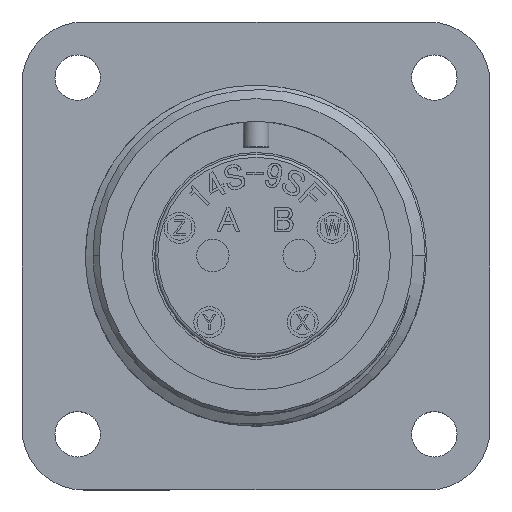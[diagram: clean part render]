
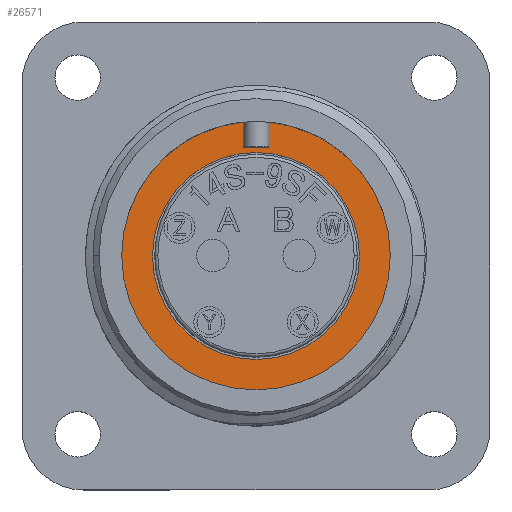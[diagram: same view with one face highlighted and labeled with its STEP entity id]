
A CAD part, top view. The second image highlights one B-rep face of the part: STEP entity #26571.
In plain terms, the highlighted planar face has unit normal (0, 0, 1).
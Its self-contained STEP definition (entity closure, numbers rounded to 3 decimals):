
#682 = EDGE_CURVE ( 'NONE', #40422, #42377, #41335, .T. ) ;
#1693 = FACE_BOUND ( 'NONE', #36719, .T. ) ;
#1934 = VERTEX_POINT ( 'NONE', #45228 ) ;
#2106 = DIRECTION ( 'NONE',  ( 0., -1., 0. ) ) ;
#2159 = DIRECTION ( 'NONE',  ( 1., 0., 0. ) ) ;
#4675 = LINE ( 'NONE', #8717, #41885 ) ;
#5313 = CIRCLE ( 'NONE', #17452, 8.67 ) ;
#5405 = EDGE_CURVE ( 'NONE', #25157, #13137, #12387, .T. ) ;
#6861 = CARTESIAN_POINT ( 'NONE',  ( 0., 0., -14.3 ) ) ;
#8044 = LINE ( 'NONE', #27371, #17637 ) ;
#8717 = CARTESIAN_POINT ( 'NONE',  ( 0.825, 7.03, -14.3 ) ) ;
#8731 = DIRECTION ( 'NONE',  ( 0., 0., 1. ) ) ;
#10503 = DIRECTION ( 'NONE',  ( 1., 0., 0. ) ) ;
#10764 = DIRECTION ( 'NONE',  ( 0., 0., 1. ) ) ;
#11254 = DIRECTION ( 'NONE',  ( 0., 0., 1. ) ) ;
#11321 = AXIS2_PLACEMENT_3D ( 'NONE', #25071, #10764, #35943 ) ;
#12246 = DIRECTION ( 'NONE',  ( 0., -1., 0. ) ) ;
#12387 = LINE ( 'NONE', #33780, #13509 ) ;
#13137 = VERTEX_POINT ( 'NONE', #20860 ) ;
#13175 = CIRCLE ( 'NONE', #16116, 6.68 ) ;
#13509 = VECTOR ( 'NONE', #12246, 1000. ) ;
#15449 = VERTEX_POINT ( 'NONE', #34649 ) ;
#16116 = AXIS2_PLACEMENT_3D ( 'NONE', #32818, #11254, #36434 ) ;
#17374 = EDGE_CURVE ( 'NONE', #42377, #1934, #5313, .T. ) ;
#17452 = AXIS2_PLACEMENT_3D ( 'NONE', #19383, #44532, #22986 ) ;
#17637 = VECTOR ( 'NONE', #2106, 1000. ) ;
#18437 = EDGE_CURVE ( 'NONE', #13137, #32930, #4675, .T. ) ;
#19383 = CARTESIAN_POINT ( 'NONE',  ( 0., 0., -14.3 ) ) ;
#19594 = DIRECTION ( 'NONE',  ( -1., 0., 0. ) ) ;
#20296 = ORIENTED_EDGE ( 'NONE', *, *, #22819, .F. ) ;
#20860 = CARTESIAN_POINT ( 'NONE',  ( 0.825, 7.03, -14.3 ) ) ;
#21124 = ORIENTED_EDGE ( 'NONE', *, *, #28221, .F. ) ;
#21390 = CARTESIAN_POINT ( 'NONE',  ( -0.825, 7.03, -14.3 ) ) ;
#22574 = ORIENTED_EDGE ( 'NONE', *, *, #30417, .T. ) ;
#22819 = EDGE_CURVE ( 'NONE', #15449, #41237, #13175, .T. ) ;
#22986 = DIRECTION ( 'NONE',  ( 1., 0., 0. ) ) ;
#23286 = CARTESIAN_POINT ( 'NONE',  ( -8.67, 0., -14.3 ) ) ;
#23762 = DIRECTION ( 'NONE',  ( 0., 0., 1. ) ) ;
#25071 = CARTESIAN_POINT ( 'NONE',  ( 0., 8.67, -14.3 ) ) ;
#25157 = VERTEX_POINT ( 'NONE', #33260 ) ;
#25413 = ORIENTED_EDGE ( 'NONE', *, *, #18437, .T. ) ;
#26571 = ADVANCED_FACE ( 'NONE', ( #1693, #38894 ), #35786, .T. ) ;
#26864 = ORIENTED_EDGE ( 'NONE', *, *, #5405, .T. ) ;
#27012 = CIRCLE ( 'NONE', #27057, 6.68 ) ;
#27057 = AXIS2_PLACEMENT_3D ( 'NONE', #30309, #8731, #33922 ) ;
#27371 = CARTESIAN_POINT ( 'NONE',  ( -0.825, 500000., -14.3 ) ) ;
#28221 = EDGE_CURVE ( 'NONE', #41237, #15449, #27012, .T. ) ;
#29803 = AXIS2_PLACEMENT_3D ( 'NONE', #6861, #32059, #10503 ) ;
#30309 = CARTESIAN_POINT ( 'NONE',  ( 0., 0., -14.3 ) ) ;
#30417 = EDGE_CURVE ( 'NONE', #1934, #25157, #32041, .T. ) ;
#32041 = CIRCLE ( 'NONE', #29803, 8.67 ) ;
#32059 = DIRECTION ( 'NONE',  ( 0., 0., 1. ) ) ;
#32818 = CARTESIAN_POINT ( 'NONE',  ( 0., 0., -14.3 ) ) ;
#32930 = VERTEX_POINT ( 'NONE', #21390 ) ;
#33260 = CARTESIAN_POINT ( 'NONE',  ( 0.825, 8.631, -14.3 ) ) ;
#33780 = CARTESIAN_POINT ( 'NONE',  ( 0.825, 500000., -14.3 ) ) ;
#33922 = DIRECTION ( 'NONE',  ( 1., 0., 0. ) ) ;
#34649 = CARTESIAN_POINT ( 'NONE',  ( -6.68, 0., -14.3 ) ) ;
#35786 = PLANE ( 'NONE',  #11321 ) ;
#35943 = DIRECTION ( 'NONE',  ( 1., 0., 0. ) ) ;
#35991 = CARTESIAN_POINT ( 'NONE',  ( 6.68, 0., -14.3 ) ) ;
#36434 = DIRECTION ( 'NONE',  ( 1., 0., 0. ) ) ;
#36719 = EDGE_LOOP ( 'NONE', ( #21124, #20296 ) ) ;
#37518 = EDGE_LOOP ( 'NONE', ( #45059, #44494, #22574, #26864, #25413, #37607 ) ) ;
#37607 = ORIENTED_EDGE ( 'NONE', *, *, #37781, .F. ) ;
#37781 = EDGE_CURVE ( 'NONE', #40422, #32930, #8044, .T. ) ;
#38894 = FACE_OUTER_BOUND ( 'NONE', #37518, .T. ) ;
#40422 = VERTEX_POINT ( 'NONE', #44728 ) ;
#41237 = VERTEX_POINT ( 'NONE', #35991 ) ;
#41335 = CIRCLE ( 'NONE', #44304, 8.67 ) ;
#41885 = VECTOR ( 'NONE', #19594, 1000. ) ;
#42377 = VERTEX_POINT ( 'NONE', #23286 ) ;
#44304 = AXIS2_PLACEMENT_3D ( 'NONE', #45301, #23762, #2159 ) ;
#44494 = ORIENTED_EDGE ( 'NONE', *, *, #17374, .T. ) ;
#44532 = DIRECTION ( 'NONE',  ( 0., 0., 1. ) ) ;
#44728 = CARTESIAN_POINT ( 'NONE',  ( -0.825, 8.631, -14.3 ) ) ;
#45059 = ORIENTED_EDGE ( 'NONE', *, *, #682, .T. ) ;
#45228 = CARTESIAN_POINT ( 'NONE',  ( 8.67, 0., -14.3 ) ) ;
#45301 = CARTESIAN_POINT ( 'NONE',  ( 0., 0., -14.3 ) ) ;
